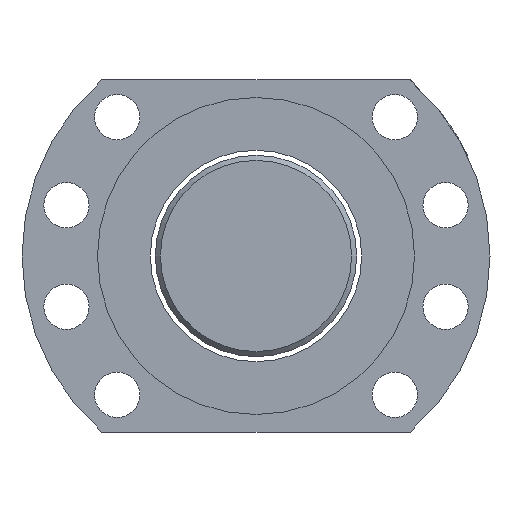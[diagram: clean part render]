
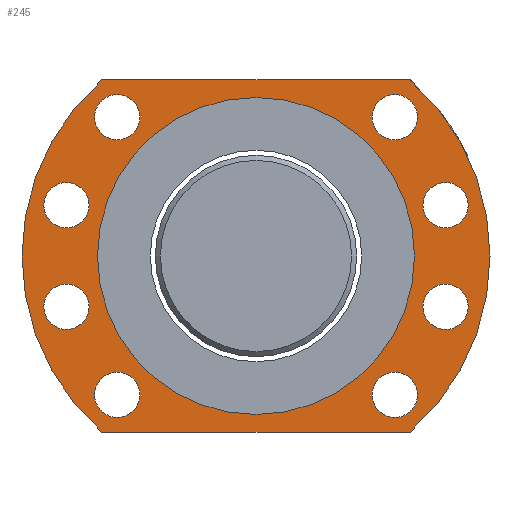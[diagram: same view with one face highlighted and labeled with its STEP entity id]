
A CAD part, left-side view. The second image highlights one B-rep face of the part: STEP entity #245.
In plain terms, the highlighted planar face has unit normal (-1, 0, 0).
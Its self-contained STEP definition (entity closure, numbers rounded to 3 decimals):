
#5 = DIRECTION ( 'NONE',  ( 1., 0., 0. ) ) ;
#69 = AXIS2_PLACEMENT_3D ( 'NONE', #552, #186, #1447 ) ;
#73 = CARTESIAN_POINT ( 'NONE',  ( -64.187, 34.578, -40.824 ) ) ;
#110 = AXIS2_PLACEMENT_3D ( 'NONE', #1640, #2369, #183 ) ;
#128 = VERTEX_POINT ( 'NONE', #672 ) ;
#135 = EDGE_LOOP ( 'NONE', ( #908 ) ) ;
#140 = VERTEX_POINT ( 'NONE', #162 ) ;
#156 = ORIENTED_EDGE ( 'NONE', *, *, #1518, .T. ) ;
#162 = CARTESIAN_POINT ( 'NONE',  ( -64.187, -20.577, -36.324 ) ) ;
#183 = DIRECTION ( 'NONE',  ( 0., 0., 1. ) ) ;
#184 = AXIS2_PLACEMENT_3D ( 'NONE', #73, #1909, #2265 ) ;
#186 = DIRECTION ( 'NONE',  ( -1., 0., 0. ) ) ;
#228 = EDGE_CURVE ( 'NONE', #2135, #239, #339, .T. ) ;
#239 = VERTEX_POINT ( 'NONE', #2180 ) ;
#245 = ADVANCED_FACE ( 'NONE', ( #1089, #2372, #2381, #1457, #1663, #2191, #543, #1278, #1099, #1832 ), #916, .T. ) ;
#269 = CARTESIAN_POINT ( 'NONE',  ( -64.187, -20.577, -40.824 ) ) ;
#290 = ORIENTED_EDGE ( 'NONE', *, *, #1446, .T. ) ;
#302 = AXIS2_PLACEMENT_3D ( 'NONE', #1897, #1490, #2109 ) ;
#304 = CIRCLE ( 'NONE', #1657, 4.5 ) ;
#318 = CARTESIAN_POINT ( 'NONE',  ( -64.187, -30.67, -23.34 ) ) ;
#331 = CARTESIAN_POINT ( 'NONE',  ( -64.187, 34.578, 18.831 ) ) ;
#339 = CIRCLE ( 'NONE', #69, 46.5 ) ;
#340 = DIRECTION ( 'NONE',  ( 0., -1., 0. ) ) ;
#352 = CARTESIAN_POINT ( 'NONE',  ( -64.187, 37.615, -48.247 ) ) ;
#367 = DIRECTION ( 'NONE',  ( 0., 0., 1. ) ) ;
#408 = EDGE_LOOP ( 'NONE', ( #1728 ) ) ;
#412 = CIRCLE ( 'NONE', #1772, 4.5 ) ;
#413 = AXIS2_PLACEMENT_3D ( 'NONE', #1471, #742, #1480 ) ;
#421 = EDGE_LOOP ( 'NONE', ( #1018 ) ) ;
#461 = EDGE_CURVE ( 'NONE', #1639, #1639, #1267, .T. ) ;
#484 = EDGE_LOOP ( 'NONE', ( #1645, #156, #1715, #290 ) ) ;
#497 = ORIENTED_EDGE ( 'NONE', *, *, #461, .F. ) ;
#498 = AXIS2_PLACEMENT_3D ( 'NONE', #269, #1214, #1770 ) ;
#528 = VERTEX_POINT ( 'NONE', #1217 ) ;
#534 = ORIENTED_EDGE ( 'NONE', *, *, #1882, .T. ) ;
#543 = FACE_BOUND ( 'NONE', #1611, .T. ) ;
#552 = CARTESIAN_POINT ( 'NONE',  ( -64.187, 7.001, -13.247 ) ) ;
#633 = CARTESIAN_POINT ( 'NONE',  ( -64.187, 37.615, -48.247 ) ) ;
#636 = EDGE_CURVE ( 'NONE', #1040, #1040, #1729, .T. ) ;
#672 = CARTESIAN_POINT ( 'NONE',  ( -64.187, -30.67, 1.347 ) ) ;
#686 = CARTESIAN_POINT ( 'NONE',  ( -64.187, -20.577, 18.831 ) ) ;
#710 = VERTEX_POINT ( 'NONE', #1777 ) ;
#728 = AXIS2_PLACEMENT_3D ( 'NONE', #318, #1062, #1797 ) ;
#740 = DIRECTION ( 'NONE',  ( 0., 0., 1. ) ) ;
#742 = DIRECTION ( 'NONE',  ( -1., 0., 0. ) ) ;
#874 = EDGE_LOOP ( 'NONE', ( #2328 ) ) ;
#897 = ORIENTED_EDGE ( 'NONE', *, *, #636, .F. ) ;
#908 = ORIENTED_EDGE ( 'NONE', *, *, #2173, .F. ) ;
#916 = PLANE ( 'NONE',  #413 ) ;
#921 = CIRCLE ( 'NONE', #728, 4.5 ) ;
#979 = EDGE_LOOP ( 'NONE', ( #1509 ) ) ;
#1006 = ORIENTED_EDGE ( 'NONE', *, *, #1790, .F. ) ;
#1018 = ORIENTED_EDGE ( 'NONE', *, *, #1282, .T. ) ;
#1040 = VERTEX_POINT ( 'NONE', #1422 ) ;
#1048 = EDGE_LOOP ( 'NONE', ( #1006 ) ) ;
#1062 = DIRECTION ( 'NONE',  ( 1., 0., 0. ) ) ;
#1066 = DIRECTION ( 'NONE',  ( 0., 0., 1. ) ) ;
#1075 = VERTEX_POINT ( 'NONE', #686 ) ;
#1089 = FACE_BOUND ( 'NONE', #421, .T. ) ;
#1099 = FACE_BOUND ( 'NONE', #1048, .T. ) ;
#1110 = CARTESIAN_POINT ( 'NONE',  ( -64.187, 44.672, -23.34 ) ) ;
#1113 = CARTESIAN_POINT ( 'NONE',  ( -64.187, 7.001, -13.247 ) ) ;
#1149 = VECTOR ( 'NONE', #1863, 1000. ) ;
#1202 = CARTESIAN_POINT ( 'NONE',  ( -64.187, -30.67, -3.153 ) ) ;
#1214 = DIRECTION ( 'NONE',  ( 1., 0., 0. ) ) ;
#1217 = CARTESIAN_POINT ( 'NONE',  ( -64.187, 44.672, -18.84 ) ) ;
#1248 = EDGE_CURVE ( 'NONE', #140, #140, #1340, .T. ) ;
#1267 = CIRCLE ( 'NONE', #302, 31.5 ) ;
#1277 = CARTESIAN_POINT ( 'NONE',  ( -64.187, 44.672, -3.153 ) ) ;
#1278 = FACE_BOUND ( 'NONE', #874, .T. ) ;
#1282 = EDGE_CURVE ( 'NONE', #128, #128, #412, .T. ) ;
#1291 = CIRCLE ( 'NONE', #1603, 4.5 ) ;
#1307 = DIRECTION ( 'NONE',  ( -1., 0., 0. ) ) ;
#1340 = CIRCLE ( 'NONE', #498, 4.5 ) ;
#1343 = AXIS2_PLACEMENT_3D ( 'NONE', #1661, #5, #740 ) ;
#1354 = EDGE_CURVE ( 'NONE', #1433, #1433, #921, .T. ) ;
#1422 = CARTESIAN_POINT ( 'NONE',  ( -64.187, 34.578, -36.324 ) ) ;
#1433 = VERTEX_POINT ( 'NONE', #2346 ) ;
#1443 = CARTESIAN_POINT ( 'NONE',  ( -64.187, 7.001, -44.747 ) ) ;
#1445 = DIRECTION ( 'NONE',  ( -1., 0., 0. ) ) ;
#1446 = EDGE_CURVE ( 'NONE', #239, #2375, #1888, .T. ) ;
#1447 = DIRECTION ( 'NONE',  ( 0., 0., -1. ) ) ;
#1457 = FACE_BOUND ( 'NONE', #408, .T. ) ;
#1464 = AXIS2_PLACEMENT_3D ( 'NONE', #1113, #1482, #2373 ) ;
#1471 = CARTESIAN_POINT ( 'NONE',  ( -64.187, 7.001, -13.247 ) ) ;
#1480 = DIRECTION ( 'NONE',  ( 0., 0., 1. ) ) ;
#1482 = DIRECTION ( 'NONE',  ( -1., 0., 0. ) ) ;
#1490 = DIRECTION ( 'NONE',  ( -1., 0., 0. ) ) ;
#1501 = CARTESIAN_POINT ( 'NONE',  ( -64.187, -23.614, -48.247 ) ) ;
#1509 = ORIENTED_EDGE ( 'NONE', *, *, #1248, .T. ) ;
#1518 = EDGE_CURVE ( 'NONE', #1755, #2135, #2342, .T. ) ;
#1536 = VECTOR ( 'NONE', #340, 1000. ) ;
#1539 = EDGE_LOOP ( 'NONE', ( #534 ) ) ;
#1603 = AXIS2_PLACEMENT_3D ( 'NONE', #1110, #1307, #367 ) ;
#1611 = EDGE_LOOP ( 'NONE', ( #497 ) ) ;
#1639 = VERTEX_POINT ( 'NONE', #1443 ) ;
#1640 = CARTESIAN_POINT ( 'NONE',  ( -64.187, 34.578, 14.331 ) ) ;
#1645 = ORIENTED_EDGE ( 'NONE', *, *, #1707, .T. ) ;
#1657 = AXIS2_PLACEMENT_3D ( 'NONE', #1277, #1445, #1066 ) ;
#1661 = CARTESIAN_POINT ( 'NONE',  ( -64.187, -20.577, 14.331 ) ) ;
#1663 = FACE_BOUND ( 'NONE', #135, .T. ) ;
#1682 = CARTESIAN_POINT ( 'NONE',  ( -64.187, -23.614, 21.753 ) ) ;
#1687 = CIRCLE ( 'NONE', #110, 4.5 ) ;
#1707 = EDGE_CURVE ( 'NONE', #2375, #1755, #2067, .T. ) ;
#1715 = ORIENTED_EDGE ( 'NONE', *, *, #228, .T. ) ;
#1728 = ORIENTED_EDGE ( 'NONE', *, *, #1961, .F. ) ;
#1729 = CIRCLE ( 'NONE', #184, 4.5 ) ;
#1746 = DIRECTION ( 'NONE',  ( 1., 0., 0. ) ) ;
#1755 = VERTEX_POINT ( 'NONE', #633 ) ;
#1770 = DIRECTION ( 'NONE',  ( 0., 0., 1. ) ) ;
#1772 = AXIS2_PLACEMENT_3D ( 'NONE', #1202, #1746, #2293 ) ;
#1777 = CARTESIAN_POINT ( 'NONE',  ( -64.187, 44.672, 1.347 ) ) ;
#1790 = EDGE_CURVE ( 'NONE', #2164, #2164, #1687, .T. ) ;
#1797 = DIRECTION ( 'NONE',  ( 0., 0., 1. ) ) ;
#1832 = FACE_BOUND ( 'NONE', #1539, .T. ) ;
#1863 = DIRECTION ( 'NONE',  ( 0., 1., 0. ) ) ;
#1879 = CIRCLE ( 'NONE', #1343, 4.5 ) ;
#1882 = EDGE_CURVE ( 'NONE', #1075, #1075, #1879, .T. ) ;
#1888 = LINE ( 'NONE', #1682, #1149 ) ;
#1897 = CARTESIAN_POINT ( 'NONE',  ( -64.187, 7.001, -13.247 ) ) ;
#1900 = CARTESIAN_POINT ( 'NONE',  ( -64.187, 37.615, 21.753 ) ) ;
#1909 = DIRECTION ( 'NONE',  ( -1., 0., 0. ) ) ;
#1961 = EDGE_CURVE ( 'NONE', #710, #710, #304, .T. ) ;
#2067 = CIRCLE ( 'NONE', #1464, 46.5 ) ;
#2109 = DIRECTION ( 'NONE',  ( 0., 0., -1. ) ) ;
#2135 = VERTEX_POINT ( 'NONE', #1501 ) ;
#2164 = VERTEX_POINT ( 'NONE', #331 ) ;
#2173 = EDGE_CURVE ( 'NONE', #528, #528, #1291, .T. ) ;
#2180 = CARTESIAN_POINT ( 'NONE',  ( -64.187, -23.614, 21.753 ) ) ;
#2191 = FACE_OUTER_BOUND ( 'NONE', #484, .T. ) ;
#2265 = DIRECTION ( 'NONE',  ( 0., 0., 1. ) ) ;
#2293 = DIRECTION ( 'NONE',  ( 0., 0., 1. ) ) ;
#2302 = EDGE_LOOP ( 'NONE', ( #897 ) ) ;
#2328 = ORIENTED_EDGE ( 'NONE', *, *, #1354, .T. ) ;
#2342 = LINE ( 'NONE', #352, #1536 ) ;
#2346 = CARTESIAN_POINT ( 'NONE',  ( -64.187, -30.67, -18.84 ) ) ;
#2369 = DIRECTION ( 'NONE',  ( -1., 0., 0. ) ) ;
#2372 = FACE_BOUND ( 'NONE', #979, .T. ) ;
#2373 = DIRECTION ( 'NONE',  ( 0., 0., -1. ) ) ;
#2375 = VERTEX_POINT ( 'NONE', #1900 ) ;
#2381 = FACE_BOUND ( 'NONE', #2302, .T. ) ;
